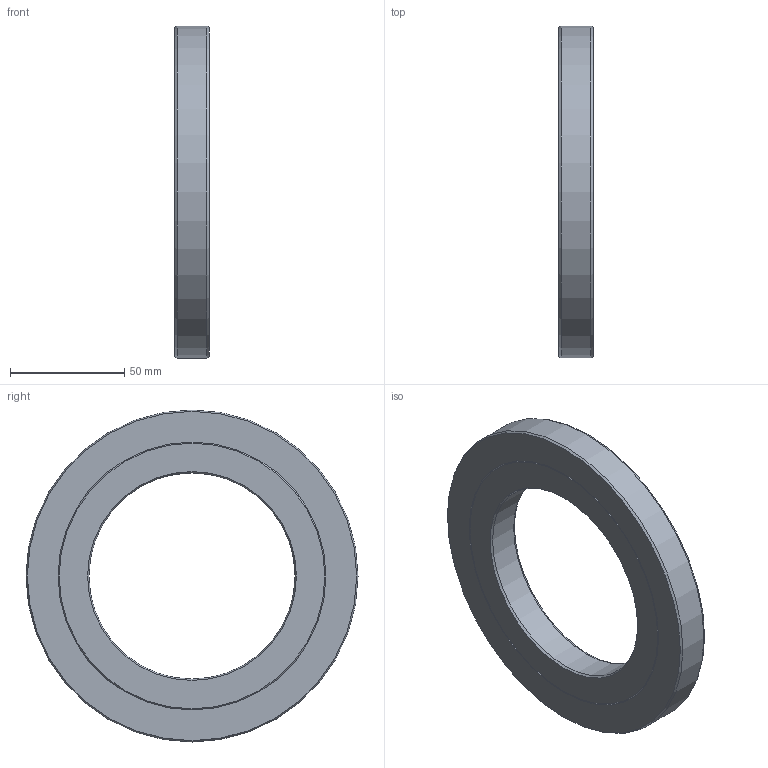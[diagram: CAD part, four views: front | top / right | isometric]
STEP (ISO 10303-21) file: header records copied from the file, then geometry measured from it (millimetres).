
FILE_DESCRIPTION(/* description */ (''),/* implementation_level */ '2;1');
FILE_NAME(/* name */ '301691 S90x145x15.stp',/* time_stamp */ '2016-12-16T14:06:24+01:00',/* author */ (''),/* organization */ (''),/* preprocessor_version */ 'ST-DEVELOPER v15',/* originating_system */ 'SIEMENS PLM Software NX 8.5',/* authorisation */ '');
FILE_SCHEMA (('CONFIG_CONTROL_DESIGN'));
Length unit declared in the file: millimetre
Products named in the file (1): ATE0000143_01
Bounding box: 15 x 145 x 145 mm (x, y, z)
Volume: 148906 mm3; surface area: 44962 mm2
Topology: 2 solids, 2 shells, 16 faces, 30 edges, 18 vertices
Faces by surface type: cone 10, plane 4, cylinder 2
Full cylindrical faces by diameter (mm): 90 x1, 145 x1
Entity records: 414 total; most frequent: DIRECTION 66, CARTESIAN_POINT 49, AXIS2_PLACEMENT_3D 33, FACE_BOUND 32, EDGE_LOOP 32, ORIENTED_EDGE 32, ADVANCED_FACE 16, VERTEX_POINT 16
